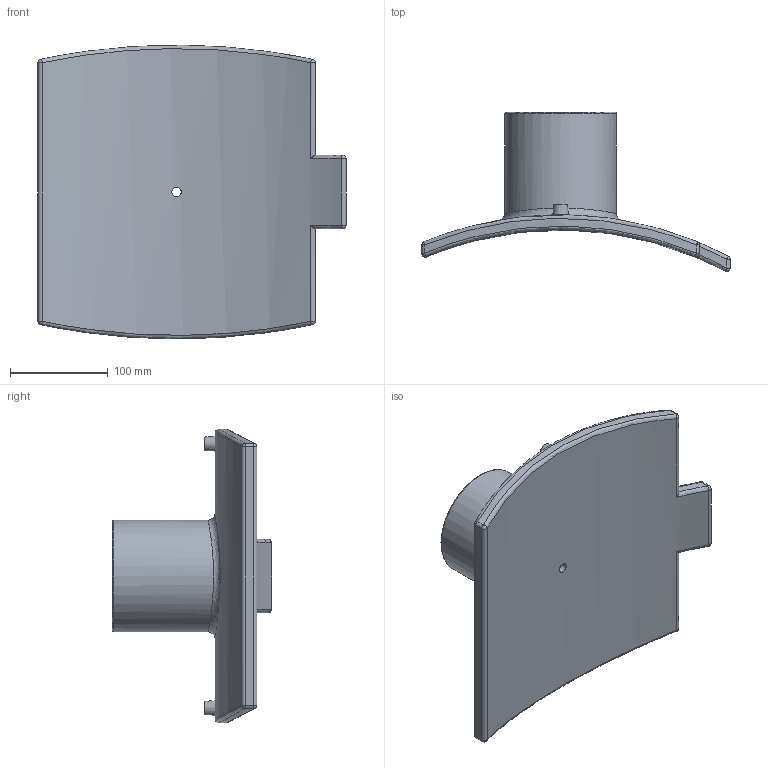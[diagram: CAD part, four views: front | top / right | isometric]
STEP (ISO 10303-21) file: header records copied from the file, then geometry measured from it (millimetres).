
FILE_DESCRIPTION(/* description */ ('PLASSON BRANCH SADDLE 18''''-28''''IPS x 16''''-24''''DIPS'),/* implementation_level */ '2;1');
FILE_NAME(/* name */ 'C:\Dropbox\KIMPROJECTS-Inventor 2019\99-16-3568-Processing Inch\ASTM ElectroFusion 2021\5958B-1\5958BB03280040.ipt.stp',/* time_stamp */ '2021-08-30T09:53:26+03:00',/* author */ ('KIM'),/* organization */ (''),/* preprocessor_version */ 'ST-DEVELOPER v17.2',/* originating_system */ 'Autodesk Inventor 2019',/* authorisation */ '');
FILE_SCHEMA (('AUTOMOTIVE_DESIGN { 1 0 10303 214 3 1 1 }'));
Length unit declared in the file: inch
Products named in the file (1): 5958BB03280040
Bounding box: 314.96 x 162.72 x 299.91 mm (x, y, z)
Volume: 1695770.6 mm3; surface area: 259932.4 mm2
Topology: 1 solids, 1 shells, 66 faces, 136 edges, 81 vertices
Faces by surface type: cylinder 27, plane 14, sphere 12, torus 6, bspline 5, cone 2
Full cylindrical faces by diameter (mm): 4 x2, 9.6 x1, 10 x2, 16 x1, 91.28 x1, 114.1 x1
Entity records: 2403 total; most frequent: CARTESIAN_POINT 969, DIRECTION 304, ORIENTED_EDGE 272, EDGE_CURVE 136, AXIS2_PLACEMENT_3D 132, VERTEX_POINT 81, EDGE_LOOP 77, CIRCLE 70
